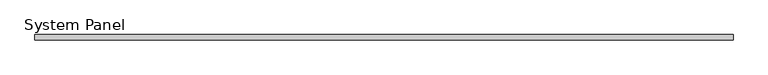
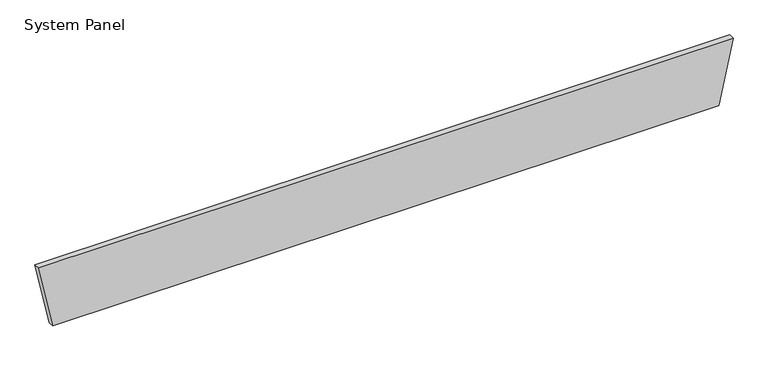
"""IFC4 building model written with IfcOpenShell, lengths in millimetres: plate geometry, System Panel : Equitilt_100mm_Plain_Surfmist."""

import ifcopenshell
import ifcopenshell.guid

model = None  # the IFC model being written
_history = None  # IfcOwnerHistory: only IFC2X3 demands one
_inside = {}  # id of a spatial element -> (the spatial element, [elements in it])
_under = {}  # id of a project, library or spatial element -> (it, [spatial elements below it])
_declared = {}  # id of a project -> (the project, [libraries it declares])
_typed = {}  # id of a type object -> (the type object, [elements of that type])
_made_of = {}  # id of a material, layer set ... -> (it, [elements and type objects made of it])


def new_model(schema):
    """Start an empty IFC model of exactly this schema.

    Asked for "IFC4X3", IfcOpenShell would pick the latest addendum, in which some entities
    have other attributes; the version numbers below select the first issue.
    IFC2X3 requires an IfcOwnerHistory on every rooted entity: one is made here for all.
    """
    global model, _history
    if schema == "IFC4X3":
        model = ifcopenshell.file(schema_version=(4, 3, 0, 0))
    else:
        model = ifcopenshell.file(schema=schema)
    _inside.clear()
    _under.clear()
    _declared.clear()
    _typed.clear()
    _made_of.clear()
    _history = None
    if model.schema == "IFC2X3":
        org = make("IfcOrganization", Name="unknown")
        user = make(
            "IfcPersonAndOrganization",
            ThePerson=make("IfcPerson", FamilyName="unknown"),
            TheOrganization=org,
        )
        app = make(
            "IfcApplication",
            ApplicationDeveloper=org,
            Version="unknown",
            ApplicationFullName="unknown",
            ApplicationIdentifier="unknown",
        )
        _history = make(
            "IfcOwnerHistory",
            OwningUser=user,
            OwningApplication=app,
            ChangeAction="ADDED",
            CreationDate=0,
        )
    return model


def make(cls, **values):
    """One entity of the class cls with the attributes given. An attribute that is None is left unset."""
    return model.create_entity(
        cls, **{name: value for name, value in values.items() if value is not None}
    )


def rooted(cls, **values):
    """An entity with a GlobalId (a new one), such as an element, a storey or a relation."""
    return make(cls, GlobalId=ifcopenshell.guid.new(), OwnerHistory=_history, **values)


def si_unit(unit_type, name, prefix=None):
    """IfcSIUnit, for example si_unit("LENGTHUNIT", "METRE", prefix="MILLI")."""
    return make("IfcSIUnit", UnitType=unit_type, Prefix=prefix, Name=name)


def assignment(units):
    """IfcUnitAssignment: the units of a project."""
    return None if units is None else make("IfcUnitAssignment", Units=units)


def point(xyz):
    """IfcCartesianPoint."""
    return None if xyz is None else make("IfcCartesianPoint", Coordinates=xyz)


def direction(xyz):
    """IfcDirection."""
    return None if xyz is None else make("IfcDirection", DirectionRatios=xyz)


def frame(location, z_axis=None, x_axis=None):
    """IfcAxis2Placement3D, a coordinate frame: its origin and axes. An axis left out is left unset."""
    return make(
        "IfcAxis2Placement3D",
        Location=point(location),
        Axis=direction(z_axis),
        RefDirection=direction(x_axis),
    )


def origin():
    """The frame at (0, 0, 0) with its axes left unset."""
    return frame((0.0, 0.0, 0.0))


def place(relative_to, where):
    """IfcLocalPlacement: puts the frame where relative to a parent placement (None: the world)."""
    return make(
        "IfcLocalPlacement", PlacementRelTo=relative_to, RelativePlacement=where
    )


def context(
    kind, dimensions, precision=None, world=None, true_north=None, identifier=None
):
    """IfcGeometricRepresentationContext, for example the 3D "Model" context."""
    return make(
        "IfcGeometricRepresentationContext",
        ContextIdentifier=identifier,
        ContextType=kind,
        CoordinateSpaceDimension=dimensions,
        Precision=precision,
        WorldCoordinateSystem=world,
        TrueNorth=true_north,
    )


def project(units=None, contexts=None):
    """IfcProject with its units and contexts."""
    return rooted(
        "IfcProject",
        Name="project",
        RepresentationContexts=contexts,
        UnitsInContext=assignment(units),
    )


def spatial(cls, under=None, at=None, **own):
    """A site, building, storey or space (cls), placed at a placement, below another one or the project."""
    s = rooted(cls, ObjectPlacement=at, **own)
    if under is not None:
        _under.setdefault(under.id(), (under, []))[1].append(s)
    return s


def polyline(points):
    """IfcPolyline through the points."""
    return make("IfcPolyline", Points=[point(p) for p in points])


def outline(outer, holes=None, kind="AREA"):
    """IfcArbitraryClosedProfileDef: a profile drawn as a closed curve; with holes, ...WithVoids."""
    if holes is None:
        return make("IfcArbitraryClosedProfileDef", ProfileType=kind, OuterCurve=outer)
    return make(
        "IfcArbitraryProfileDefWithVoids",
        ProfileType=kind,
        OuterCurve=outer,
        InnerCurves=holes,
    )


def extrude(swept, where, along, depth):
    """IfcExtrudedAreaSolid: the profile swept, set in the frame where, extruded along a direction by depth."""
    return make(
        "IfcExtrudedAreaSolid",
        SweptArea=swept,
        Position=where,
        ExtrudedDirection=direction(along),
        Depth=depth,
    )


def shape(context_of_items, identifier, shape_type, items):
    """IfcShapeRepresentation: the items that make up one representation, for example the "Body"."""
    return make(
        "IfcShapeRepresentation",
        ContextOfItems=context_of_items,
        RepresentationIdentifier=identifier,
        RepresentationType=shape_type,
        Items=items,
    )


def source(mapping_origin, context_of_items, identifier, shape_type, items):
    """IfcRepresentationMap: a shape defined once, which mapped items show again and again."""
    return make(
        "IfcRepresentationMap",
        MappingOrigin=mapping_origin,
        MappedRepresentation=shape(context_of_items, identifier, shape_type, items),
    )


def transform(
    local_origin,
    x_axis=None,
    y_axis=None,
    z_axis=None,
    scale=None,
    scale2=None,
    scale3=None,
    uniform=True,
):
    """IfcCartesianTransformationOperator3D, or its non-uniform kind. x_axis, y_axis, z_axis: its Axis1, 2, 3."""
    if uniform:
        return make(
            "IfcCartesianTransformationOperator3D",
            Axis1=direction(x_axis),
            Axis2=direction(y_axis),
            LocalOrigin=point(local_origin),
            Scale=scale,
            Axis3=direction(z_axis),
        )
    return make(
        "IfcCartesianTransformationOperator3DnonUniform",
        Axis1=direction(x_axis),
        Axis2=direction(y_axis),
        LocalOrigin=point(local_origin),
        Scale=scale,
        Axis3=direction(z_axis),
        Scale2=scale2,
        Scale3=scale3,
    )


def mapped(mapping_source, mapping_target):
    """IfcMappedItem: shows the shape of a source again, moved by a transform."""
    return make(
        "IfcMappedItem", MappingSource=mapping_source, MappingTarget=mapping_target
    )


def made_of(thing, what):
    """Note that an element or type object is made of a material, layer set ...; save() writes the relation."""
    if what is not None:
        _made_of.setdefault(what.id(), (what, []))[1].append(thing)
    return thing


def element(
    cls,
    number,
    at=None,
    inside=None,
    cuts=None,
    type_object=None,
    material=None,
    context=None,
    identifier="Body",
    shape_type=None,
    held_by="IfcProductDefinitionShape",
    body=None,
    shapes=None,
    **own,
):
    """One element of the class cls, such as IfcWall. Its Tag is "e" and its number.

    at: its placement. inside: the storey or other place that contains it. cuts: it is an
    opening in that element (IfcRelVoidsElement). A single representation is given by context,
    identifier, shape_type and body (its items); several are given by shapes. held_by: the class
    of the entity that holds the representations. save() writes the other relations.
    """
    e = rooted(cls, Tag="e%d" % number, ObjectPlacement=at, **own)
    if body is not None:
        shapes = [shape(context, identifier, shape_type, body)]
    if shapes is not None:
        e.Representation = make(held_by, Representations=shapes)
    if inside is not None:
        _inside.setdefault(inside.id(), (inside, []))[1].append(e)
    if cuts is not None:
        rooted(
            "IfcRelVoidsElement", RelatingBuildingElement=cuts, RelatedOpeningElement=e
        )
    if type_object is not None:
        _typed.setdefault(type_object.id(), (type_object, []))[1].append(e)
    return made_of(e, material)


def aggregate(whole, parts):
    """IfcRelAggregates: a whole, such as a stair, and the parts it consists of."""
    return rooted("IfcRelAggregates", RelatingObject=whole, RelatedObjects=parts)


def save(model, path):
    """Write the relations noted so far, then the file.

    IfcRelAggregates (storeys below a building ...), IfcRelContainedInSpatialStructure (elements
    in a storey), IfcRelDefinesByType, IfcRelAssociatesMaterial and IfcRelDeclares: one each for
    every whole, place, type object, material and project.
    """
    for whole, parts in _under.values():
        aggregate(whole, parts)
    for where, things in _inside.values():
        rooted(
            "IfcRelContainedInSpatialStructure",
            RelatedElements=things,
            RelatingStructure=where,
        )
    for kind, things in _typed.values():
        rooted("IfcRelDefinesByType", RelatedObjects=things, RelatingType=kind)
    for what, things in _made_of.values():
        rooted("IfcRelAssociatesMaterial", RelatedObjects=things, RelatingMaterial=what)
    for by, libraries in _declared.values():
        rooted("IfcRelDeclares", RelatingContext=by, RelatedDefinitions=libraries)
    model.write(path)


def system_panel_b9144f36(model_context):
    return source(origin(), model_context, "Body", "SweptSolid", [
        extrude(outline(polyline([(0.0, -6000.0), (0.0, 6000.0), (1200.0, 6260.8716619), (1200.0, -6260.8716619), (0.0, -6000.0)])), frame((0.0, -100.0, 0.0), z_axis=(0.0, 1.0, 0.0), x_axis=(0.0, 0.0, 1.0)), (0.0, 0.0, 1.0), 100.0),
    ])


if __name__ == "__main__":
    model = new_model("IFC4")
    model_context = context("Model", 3, world=origin())
    ifc_project = project(units=[si_unit("LENGTHUNIT", "METRE", prefix="MILLI")], contexts=[model_context])
    site = spatial("IfcSite", under=ifc_project)
    building = spatial("IfcBuilding", under=site)
    placement = place(None, origin())
    system_panel_shape = system_panel_b9144f36(model_context)
    element("IfcPlate", 1, ObjectType="System Panel : Equitilt_100mm_Plain_Surfmist", at=placement, inside=building, context=model_context, shape_type="MappedRepresentation", body=[
        mapped(system_panel_shape, transform((0.0, 0.0, 0.0), x_axis=(1.0, 0.0, 0.0), y_axis=(0.0, 1.0, 0.0), z_axis=(0.0, 0.0, 1.0))),
    ])
    save(model, "model.ifc")
